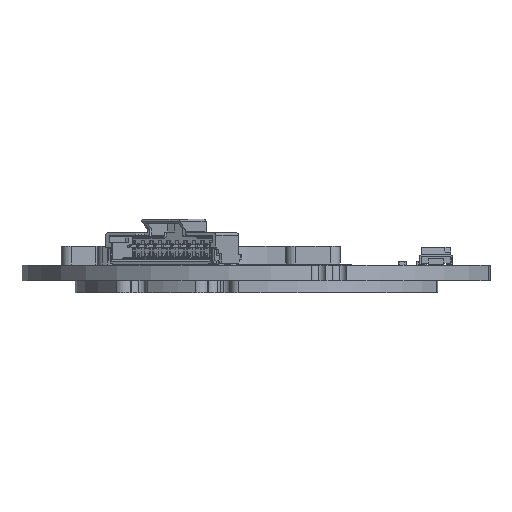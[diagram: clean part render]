
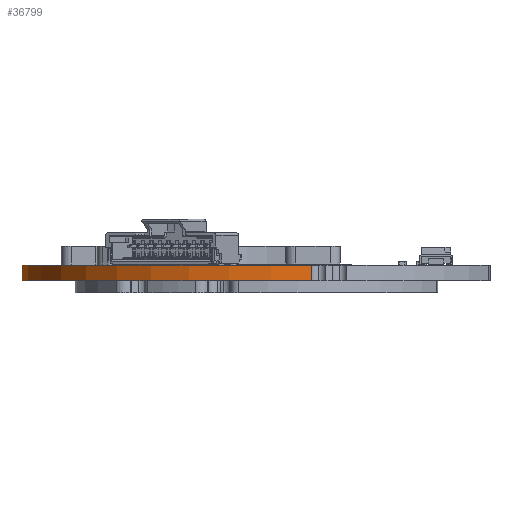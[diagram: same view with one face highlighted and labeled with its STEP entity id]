
A CAD part, left-side view. The second image highlights one B-rep face of the part: STEP entity #36799.
In plain terms, the highlighted cylindrical face has radius 25 mm (diameter 50 mm), a partial arc.
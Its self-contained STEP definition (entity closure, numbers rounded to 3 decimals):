
#872 = DIRECTION ( 'NONE',  ( 0.418, -0.909, 0. ) ) ;
#2629 = CARTESIAN_POINT ( 'NONE',  ( 28.511, 38.874, -1.6 ) ) ;
#9223 = ORIENTED_EDGE ( 'NONE', *, *, #62372, .F. ) ;
#12644 = VERTEX_POINT ( 'NONE', #20668 ) ;
#14287 = VERTEX_POINT ( 'NONE', #42878 ) ;
#15199 = VERTEX_POINT ( 'NONE', #63246 ) ;
#15483 = FACE_OUTER_BOUND ( 'NONE', #24370, .T. ) ;
#15862 = VECTOR ( 'NONE', #85333, 1000. ) ;
#18757 = VERTEX_POINT ( 'NONE', #66611 ) ;
#20668 = CARTESIAN_POINT ( 'NONE',  ( 28.511, 38.874, -1.6 ) ) ;
#24370 = EDGE_LOOP ( 'NONE', ( #36151, #59445, #63803, #9223 ) ) ;
#24729 = CARTESIAN_POINT ( 'NONE',  ( 26., 14., -1.6 ) ) ;
#28285 = EDGE_CURVE ( 'NONE', #14287, #18757, #63126, .T. ) ;
#31557 = DIRECTION ( 'NONE',  ( 0., 0., -1. ) ) ;
#32532 = DIRECTION ( 'NONE',  ( 0., 0., 1. ) ) ;
#36151 = ORIENTED_EDGE ( 'NONE', *, *, #93995, .T. ) ;
#36799 = ADVANCED_FACE ( 'NONE', ( #15483 ), #83149, .T. ) ;
#40821 = CARTESIAN_POINT ( 'NONE',  ( 26., 14., 0. ) ) ;
#42878 = CARTESIAN_POINT ( 'NONE',  ( 28.511, 38.874, 0. ) ) ;
#45850 = CARTESIAN_POINT ( 'NONE',  ( 1.44, 9.331, -1.6 ) ) ;
#48419 = LINE ( 'NONE', #2629, #15862 ) ;
#51283 = EDGE_CURVE ( 'NONE', #15199, #18757, #82756, .T. ) ;
#52204 = DIRECTION ( 'NONE',  ( 0.418, -0.909, 0. ) ) ;
#59011 = DIRECTION ( 'NONE',  ( 0., 0., 1. ) ) ;
#59445 = ORIENTED_EDGE ( 'NONE', *, *, #51283, .T. ) ;
#62372 = EDGE_CURVE ( 'NONE', #12644, #14287, #48419, .T. ) ;
#63126 = CIRCLE ( 'NONE', #75498, 25. ) ;
#63246 = CARTESIAN_POINT ( 'NONE',  ( 1.44, 9.331, -1.6 ) ) ;
#63803 = ORIENTED_EDGE ( 'NONE', *, *, #28285, .F. ) ;
#66130 = CIRCLE ( 'NONE', #84740, 25. ) ;
#66611 = CARTESIAN_POINT ( 'NONE',  ( 1.44, 9.331, 0. ) ) ;
#68146 = DIRECTION ( 'NONE',  ( 0., 0., 1. ) ) ;
#69946 = DIRECTION ( 'NONE',  ( 0.418, -0.909, 0. ) ) ;
#75498 = AXIS2_PLACEMENT_3D ( 'NONE', #40821, #32532, #69946 ) ;
#77266 = VECTOR ( 'NONE', #68146, 1000. ) ;
#82756 = LINE ( 'NONE', #45850, #77266 ) ;
#83149 = CYLINDRICAL_SURFACE ( 'NONE', #90890, 25. ) ;
#84740 = AXIS2_PLACEMENT_3D ( 'NONE', #95884, #59011, #52204 ) ;
#85333 = DIRECTION ( 'NONE',  ( 0., 0., 1. ) ) ;
#90890 = AXIS2_PLACEMENT_3D ( 'NONE', #24729, #31557, #872 ) ;
#93995 = EDGE_CURVE ( 'NONE', #12644, #15199, #66130, .T. ) ;
#95884 = CARTESIAN_POINT ( 'NONE',  ( 26., 14., -1.6 ) ) ;
